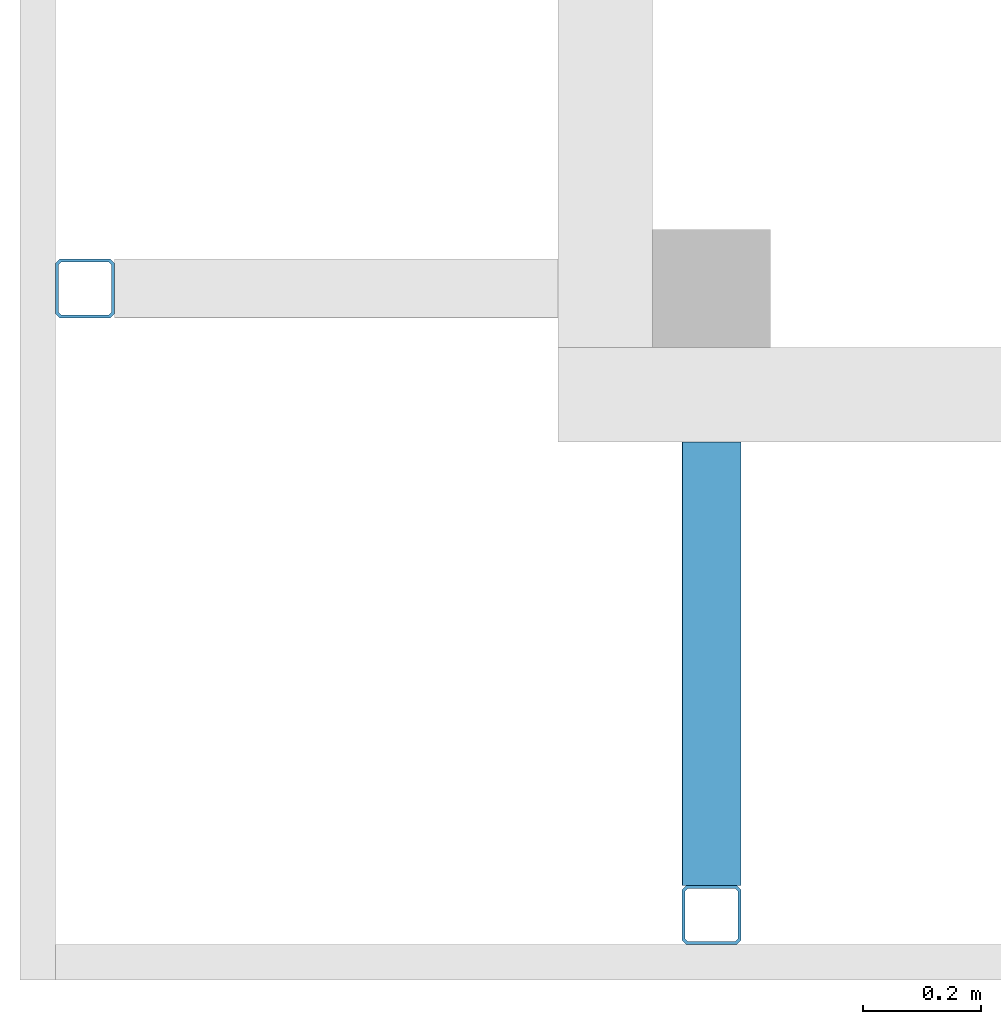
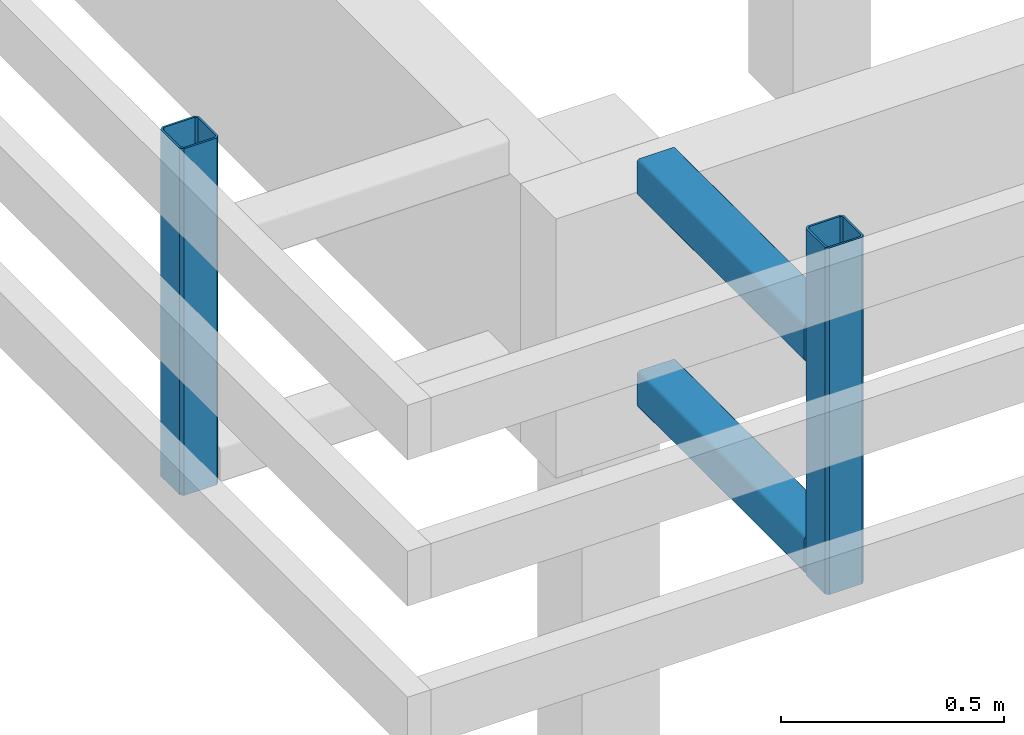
# One storey, part 3 of 42: 4 members.
"""IFC4 building model written with IfcOpenShell, lengths in metres."""

import ifcopenshell
import ifcopenshell.guid

model = None  # the IFC model being written
_history = None  # IfcOwnerHistory: only IFC2X3 demands one
_inside = {}  # id of a spatial element -> (the spatial element, [elements in it])
_under = {}  # id of a project, library or spatial element -> (it, [spatial elements below it])
_declared = {}  # id of a project -> (the project, [libraries it declares])
_typed = {}  # id of a type object -> (the type object, [elements of that type])
_made_of = {}  # id of a material, layer set ... -> (it, [elements and type objects made of it])


def new_model(schema):
    """Start an empty IFC model of exactly this schema.

    Asked for "IFC4X3", IfcOpenShell would pick the latest addendum, in which some entities
    have other attributes; the version numbers below select the first issue.
    IFC2X3 requires an IfcOwnerHistory on every rooted entity: one is made here for all.
    """
    global model, _history
    if schema == "IFC4X3":
        model = ifcopenshell.file(schema_version=(4, 3, 0, 0))
    else:
        model = ifcopenshell.file(schema=schema)
    _inside.clear()
    _under.clear()
    _declared.clear()
    _typed.clear()
    _made_of.clear()
    _history = None
    if model.schema == "IFC2X3":
        org = make("IfcOrganization", Name="unknown")
        user = make(
            "IfcPersonAndOrganization",
            ThePerson=make("IfcPerson", FamilyName="unknown"),
            TheOrganization=org,
        )
        app = make(
            "IfcApplication",
            ApplicationDeveloper=org,
            Version="unknown",
            ApplicationFullName="unknown",
            ApplicationIdentifier="unknown",
        )
        _history = make(
            "IfcOwnerHistory",
            OwningUser=user,
            OwningApplication=app,
            ChangeAction="ADDED",
            CreationDate=0,
        )
    return model


def make(cls, **values):
    """One entity of the class cls with the attributes given. An attribute that is None is left unset."""
    return model.create_entity(
        cls, **{name: value for name, value in values.items() if value is not None}
    )


def entity(cls, *values):
    """Any entity or typed value of the class cls, its attributes in the order of the schema. None: left unset."""
    e = model.create_entity(cls)
    for i, value in enumerate(values):
        if value is not None:
            e[i] = value
    return e


def rooted(cls, **values):
    """An entity with a GlobalId (a new one), such as an element, a storey or a relation."""
    return make(cls, GlobalId=ifcopenshell.guid.new(), OwnerHistory=_history, **values)


def si_unit(unit_type, name, prefix=None):
    """IfcSIUnit, for example si_unit("LENGTHUNIT", "METRE", prefix="MILLI")."""
    return make("IfcSIUnit", UnitType=unit_type, Prefix=prefix, Name=name)


def converted_unit(unit_type, name, factor, base, dimensions=None, offset=None):
    """IfcConversionBasedUnit, such as the inch: factor (a typed value) times the base unit."""
    return make(
        "IfcConversionBasedUnit"
        if offset is None
        else "IfcConversionBasedUnitWithOffset",
        ConversionOffset=offset,
        Dimensions=None
        if dimensions is None
        else entity("IfcDimensionalExponents", *dimensions),
        UnitType=unit_type,
        Name=name,
        ConversionFactor=make(
            "IfcMeasureWithUnit", ValueComponent=factor, UnitComponent=base
        ),
    )


def derived_unit(unit_type, elements):
    """IfcDerivedUnit: a product of units, each with its exponent."""
    return make(
        "IfcDerivedUnit",
        Elements=[
            make("IfcDerivedUnitElement", Unit=unit, Exponent=power)
            for unit, power in elements
        ],
        UnitType=unit_type,
    )


def assignment(units):
    """IfcUnitAssignment: the units of a project."""
    return None if units is None else make("IfcUnitAssignment", Units=units)


def point(xyz):
    """IfcCartesianPoint."""
    return None if xyz is None else make("IfcCartesianPoint", Coordinates=xyz)


def direction(xyz):
    """IfcDirection."""
    return None if xyz is None else make("IfcDirection", DirectionRatios=xyz)


def frame(location, z_axis=None, x_axis=None):
    """IfcAxis2Placement3D, a coordinate frame: its origin and axes. An axis left out is left unset."""
    return make(
        "IfcAxis2Placement3D",
        Location=point(location),
        Axis=direction(z_axis),
        RefDirection=direction(x_axis),
    )


def origin():
    """The frame at (0, 0, 0) with its axes left unset."""
    return frame((0.0, 0.0, 0.0))


def place(relative_to, where):
    """IfcLocalPlacement: puts the frame where relative to a parent placement (None: the world)."""
    return make(
        "IfcLocalPlacement", PlacementRelTo=relative_to, RelativePlacement=where
    )


def context(
    kind, dimensions, precision=None, world=None, true_north=None, identifier=None
):
    """IfcGeometricRepresentationContext, for example the 3D "Model" context."""
    return make(
        "IfcGeometricRepresentationContext",
        ContextIdentifier=identifier,
        ContextType=kind,
        CoordinateSpaceDimension=dimensions,
        Precision=precision,
        WorldCoordinateSystem=world,
        TrueNorth=true_north,
    )


def subcontext(parent, identifier, kind, view, scale=None):
    """IfcGeometricRepresentationSubContext, for example "Body" below "Model"."""
    return make(
        "IfcGeometricRepresentationSubContext",
        ContextIdentifier=identifier,
        ContextType=kind,
        ParentContext=parent,
        TargetScale=scale,
        TargetView=view,
    )


def project(units=None, contexts=None):
    """IfcProject with its units and contexts."""
    return rooted(
        "IfcProject",
        Name="project",
        RepresentationContexts=contexts,
        UnitsInContext=assignment(units),
    )


def spatial(cls, under=None, at=None, **own):
    """A site, building, storey or space (cls), placed at a placement, below another one or the project."""
    s = rooted(cls, ObjectPlacement=at, **own)
    if under is not None:
        _under.setdefault(under.id(), (under, []))[1].append(s)
    return s


def faces_of(points, faces, orient=None, outer=None):
    """IfcFace entities. A face is a list of loops; a loop is a list of indices into points, from 0.

    orient and outer hold one flag for each loop. By default every Orientation is true, the
    first loop of a face is its IfcFaceOuterBound and the others are IfcFaceBound.
    """
    made = []
    for i, loops in enumerate(faces):
        bounds = []
        for j, loop in enumerate(loops):
            is_outer = j == 0 if outer is None else outer[i][j]
            bounds.append(
                make(
                    "IfcFaceOuterBound" if is_outer else "IfcFaceBound",
                    Bound=make("IfcPolyLoop", Polygon=[points[k] for k in loop]),
                    Orientation=True if orient is None else orient[i][j],
                )
            )
        made.append(make("IfcFace", Bounds=bounds))
    return made


def faceted_brep(points, faces, orient=None, outer=None, voids=None):
    """IfcFacetedBrep: a solid bounded by flat faces; with voids (closed shells), ...WithVoids."""
    shared = [point(p) for p in points]
    hull = make("IfcClosedShell", CfsFaces=faces_of(shared, faces, orient, outer))
    if voids is None:
        return make("IfcFacetedBrep", Outer=hull)
    return make(
        "IfcFacetedBrepWithVoids",
        Outer=hull,
        Voids=[
            make(cls, CfsFaces=faces_of(shared, fs, o, b)) for cls, fs, o, b in voids
        ],
    )


def shape(context_of_items, identifier, shape_type, items):
    """IfcShapeRepresentation: the items that make up one representation, for example the "Body"."""
    return make(
        "IfcShapeRepresentation",
        ContextOfItems=context_of_items,
        RepresentationIdentifier=identifier,
        RepresentationType=shape_type,
        Items=items,
    )


def material(Name=None, Category=None):
    """IfcMaterial."""
    return make("IfcMaterial", Name=Name, Category=Category)


def made_of(thing, what):
    """Note that an element or type object is made of a material, layer set ...; save() writes the relation."""
    if what is not None:
        _made_of.setdefault(what.id(), (what, []))[1].append(thing)
    return thing


def element(
    cls,
    number,
    at=None,
    inside=None,
    cuts=None,
    type_object=None,
    material=None,
    context=None,
    identifier="Body",
    shape_type=None,
    held_by="IfcProductDefinitionShape",
    body=None,
    shapes=None,
    **own,
):
    """One element of the class cls, such as IfcWall. Its Tag is "e" and its number.

    at: its placement. inside: the storey or other place that contains it. cuts: it is an
    opening in that element (IfcRelVoidsElement). A single representation is given by context,
    identifier, shape_type and body (its items); several are given by shapes. held_by: the class
    of the entity that holds the representations. save() writes the other relations.
    """
    e = rooted(cls, Tag="e%d" % number, ObjectPlacement=at, **own)
    if body is not None:
        shapes = [shape(context, identifier, shape_type, body)]
    if shapes is not None:
        e.Representation = make(held_by, Representations=shapes)
    if inside is not None:
        _inside.setdefault(inside.id(), (inside, []))[1].append(e)
    if cuts is not None:
        rooted(
            "IfcRelVoidsElement", RelatingBuildingElement=cuts, RelatedOpeningElement=e
        )
    if type_object is not None:
        _typed.setdefault(type_object.id(), (type_object, []))[1].append(e)
    return made_of(e, material)


def aggregate(whole, parts):
    """IfcRelAggregates: a whole, such as a stair, and the parts it consists of."""
    return rooted("IfcRelAggregates", RelatingObject=whole, RelatedObjects=parts)


def save(model, path):
    """Write the relations noted so far, then the file.

    IfcRelAggregates (storeys below a building ...), IfcRelContainedInSpatialStructure (elements
    in a storey), IfcRelDefinesByType, IfcRelAssociatesMaterial and IfcRelDeclares: one each for
    every whole, place, type object, material and project.
    """
    for whole, parts in _under.values():
        aggregate(whole, parts)
    for where, things in _inside.values():
        rooted(
            "IfcRelContainedInSpatialStructure",
            RelatedElements=things,
            RelatingStructure=where,
        )
    for kind, things in _typed.values():
        rooted("IfcRelDefinesByType", RelatedObjects=things, RelatingType=kind)
    for what, things in _made_of.values():
        rooted("IfcRelAssociatesMaterial", RelatedObjects=things, RelatingMaterial=what)
    for by, libraries in _declared.values():
        rooted("IfcRelDeclares", RelatingContext=by, RelatedDefinitions=libraries)
    model.write(path)


model = new_model("IFC4")

# Units and contexts
model_context = context("Model", 3, precision=1e-05, world=origin())
plan_context = context("Plan", 2, precision=1e-05, world=origin())
body_context = subcontext(model_context, "Body", "Model", "MODEL_VIEW")
ifc_project = project(units=[si_unit("LENGTHUNIT", "METRE"), si_unit("AREAUNIT", "SQUARE_METRE"), si_unit("VOLUMEUNIT", "CUBIC_METRE"), si_unit("MASSUNIT", "GRAM", prefix="KILO"), converted_unit("PLANEANGLEUNIT", "DEGREE", entity("IfcPlaneAngleMeasure", 0.0174532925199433), si_unit("PLANEANGLEUNIT", "RADIAN"), dimensions=[0, 0, 0, 0, 0, 0, 0]), derived_unit("THERMALTRANSMITTANCEUNIT", [(si_unit("POWERUNIT", "WATT"), 1), (si_unit("THERMODYNAMICTEMPERATUREUNIT", "KELVIN"), -1), (si_unit("LENGTHUNIT", "METRE"), -2)]), derived_unit("VOLUMETRICFLOWRATEUNIT", [(si_unit("LENGTHUNIT", "METRE"), 3), (converted_unit("TIMEUNIT", "hour", entity("IfcTimeMeasure", 3600.0), si_unit("TIMEUNIT", "SECOND"), dimensions=[0, 0, 1, 0, 0, 0, 0]), -1), (si_unit("LENGTHUNIT", "METRE"), -1)])], contexts=[model_context, plan_context])

# Site, building, storey
site_placement = place(None, origin())
site = spatial("IfcSite", under=ifc_project, at=site_placement, Name="Site", CompositionType="ELEMENT")
building_placement = place(site_placement, origin())
building = spatial("IfcBuilding", under=site, at=building_placement, Name="Admin", CompositionType="ELEMENT")
storey_placement = place(building_placement, frame((0.0, 0.0, 6.61)))
storey = spatial("IfcBuildingStorey", under=building, at=storey_placement, Name="02-Etage2", CompositionType="ELEMENT", Elevation=6.61)

# Members
ifc_material_1 = material(Name="S235")
member_1_placement = place(storey_placement, frame((23.1498008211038, 12.0794493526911, 2.28)))
element("IfcMember", 1, at=member_1_placement, inside=storey, material=ifc_material_1, Name="Bandeau R+2", context=body_context, shape_type="Brep", body=[
    faceted_brep([(0.0950000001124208, 0.0900000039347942, 0.0), (0.0950000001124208, 0.0900000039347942, 0.95), (0.0950000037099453, 0.0100000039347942, 0.95), (0.0950000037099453, 0.0100000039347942, 0.0), (0.0899999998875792, 0.0950000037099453, 0.0), (0.0899999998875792, 0.0950000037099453, 0.95), (0.00999999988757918, 0.0950000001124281, 0.0), (0.00999999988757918, 0.0950000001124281, 0.95), (0.00500000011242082, 0.0899999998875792, 0.0), (0.00500000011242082, 0.0899999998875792, 0.95), (0.0050000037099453, 0.00999999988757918, 0.0), (0.0050000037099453, 0.00999999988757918, 0.95), (0.0100000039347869, 0.0050000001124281, 0.0), (0.0100000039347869, 0.0050000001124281, 0.95), (0.090000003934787, 0.0050000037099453, 0.0), (0.090000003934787, 0.0050000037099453, 0.95), (0.0925000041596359, 3.82237340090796e-09, 0.0), (0.0925000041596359, 3.82237340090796e-09, 0.95), (0.100000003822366, 0.00750000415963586, 0.95), (0.100000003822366, 0.00750000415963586, 0.0), (0.00750000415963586, 0.0, 0.0), (0.00750000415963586, 0.0, 0.95), (3.82236612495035e-09, 0.00749999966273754, 0.0), (3.82236612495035e-09, 0.00749999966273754, 0.95), (0.0, 0.0924999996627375, 0.0), (0.0, 0.0924999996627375, 0.95), (0.00749999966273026, 0.1, 0.0), (0.00749999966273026, 0.1, 0.95), (0.0924999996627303, 0.100000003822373, 0.0), (0.0924999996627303, 0.100000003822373, 0.95), (0.1, 0.0925000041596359, 0.0), (0.1, 0.0925000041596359, 0.95)], [[[0, 1, 2, 3]], [[4, 5, 1, 0]], [[6, 7, 5, 4]], [[8, 9, 7, 6]], [[10, 11, 9, 8]], [[12, 13, 11, 10]], [[14, 15, 13, 12]], [[3, 2, 15, 14]], [[16, 17, 18, 19]], [[20, 21, 17, 16]], [[22, 23, 21, 20]], [[24, 25, 23, 22]], [[26, 27, 25, 24]], [[28, 29, 27, 26]], [[30, 31, 29, 28]], [[19, 18, 31, 30]], [[18, 17, 21, 23, 25, 27, 29, 31], [2, 1, 5, 7, 9, 11, 13, 15]], [[19, 30, 28, 26, 24, 22, 20, 16], [3, 14, 12, 10, 8, 6, 4, 0]]], orient=[[False], [False], [False], [False], [False], [False], [False], [False], [False], [False], [False], [False], [False], [False], [False], [False], [False, False], [False, False]]),
])
ifc_material_2 = material(Name="S235")
member_2_placement = place(storey_placement, frame((24.2098010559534, 11.0194493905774, 2.28)))
element("IfcMember", 2, at=member_2_placement, inside=storey, material=ifc_material_2, Name="Bandeau R+2", context=body_context, shape_type="Brep", body=[
    faceted_brep([(0.01, 0.095, 0.0), (0.01, 0.095, 0.95), (0.09, 0.095, 0.95), (0.09, 0.095, 0.0), (0.005, 0.09, 0.0), (0.005, 0.09, 0.95), (0.005, 0.01, 0.0), (0.005, 0.01, 0.95), (0.01, 0.005, 0.0), (0.01, 0.005, 0.95), (0.09, 0.005, 0.0), (0.09, 0.005, 0.95), (0.095, 0.01, 0.0), (0.095, 0.01, 0.95), (0.095, 0.09, 0.0), (0.095, 0.09, 0.95), (0.1, 0.0925, 0.0), (0.1, 0.0925, 0.95), (0.0925, 0.1, 0.95), (0.0925, 0.1, 0.0), (0.1, 0.0075, 0.0), (0.1, 0.0075, 0.95), (0.0925, 0.0, 0.0), (0.0925, 0.0, 0.95), (0.0075, 0.0, 0.0), (0.0075, 0.0, 0.95), (0.0, 0.0075, 0.0), (0.0, 0.0075, 0.95), (0.0, 0.0925, 0.0), (0.0, 0.0925, 0.95), (0.0075, 0.1, 0.0), (0.0075, 0.1, 0.95)], [[[0, 1, 2, 3]], [[4, 5, 1, 0]], [[6, 7, 5, 4]], [[8, 9, 7, 6]], [[10, 11, 9, 8]], [[12, 13, 11, 10]], [[14, 15, 13, 12]], [[3, 2, 15, 14]], [[16, 17, 18, 19]], [[20, 21, 17, 16]], [[22, 23, 21, 20]], [[24, 25, 23, 22]], [[26, 27, 25, 24]], [[28, 29, 27, 26]], [[30, 31, 29, 28]], [[19, 18, 31, 30]], [[18, 17, 21, 23, 25, 27, 29, 31], [2, 1, 5, 7, 9, 11, 13, 15]], [[19, 30, 28, 26, 24, 22, 20, 16], [3, 14, 12, 10, 8, 6, 4, 0]]], orient=[[False], [False], [False], [False], [False], [False], [False], [False], [False], [False], [False], [False], [False], [False], [False], [False], [False, False], [False, False]]),
])
ifc_material_3 = material(Name="S235")
member_3_placement = place(storey_placement, frame((24.2098010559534, 11.1194493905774, 2.86)))
element("IfcMember", 3, at=member_3_placement, inside=storey, material=ifc_material_3, Name="Bandeau R+2", context=body_context, shape_type="Brep", body=[
    faceted_brep([(0.095, 0.0, 0.09), (0.095, 0.0, 0.01), (0.0950000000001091, 0.74999999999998, 0.01), (0.0950000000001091, 0.74999999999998, 0.09), (0.0949240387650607, 0.0, 0.0908682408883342), (0.0949240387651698, 0.74999999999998, 0.0908682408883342), (0.0946984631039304, 0.0, 0.0917101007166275), (0.0946984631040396, 0.74999999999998, 0.0917101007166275), (0.0943301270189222, 0.0, 0.0925), (0.0943301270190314, 0.74999999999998, 0.0925), (0.0938302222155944, 0.0, 0.0932139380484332), (0.0938302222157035, 0.74999999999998, 0.0932139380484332), (0.0932139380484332, 1.81898940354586e-15, 0.0938302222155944), (0.0932139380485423, 0.749999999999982, 0.0938302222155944), (0.0925, 1.81898940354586e-15, 0.0943301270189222), (0.0925000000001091, 0.749999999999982, 0.0943301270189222), (0.0917101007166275, 1.81898940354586e-15, 0.0946984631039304), (0.0917101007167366, 0.749999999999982, 0.0946984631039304), (0.090868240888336, 1.81898940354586e-15, 0.0949240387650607), (0.0908682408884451, 0.749999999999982, 0.0949240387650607), (0.09, 1.81898940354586e-15, 0.095), (0.0900000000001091, 0.749999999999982, 0.095), (0.01, 1.2732925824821e-14, 0.095), (0.0100000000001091, 0.749999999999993, 0.095), (0.009131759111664, 1.2732925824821e-14, 0.0949240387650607), (0.00913175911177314, 0.749999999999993, 0.0949240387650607), (0.00828989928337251, 1.2732925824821e-14, 0.0946984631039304), (0.00828989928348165, 0.749999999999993, 0.0946984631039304), (0.0075, 1.2732925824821e-14, 0.0943301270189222), (0.00750000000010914, 0.749999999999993, 0.0943301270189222), (0.00678606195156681, 1.2732925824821e-14, 0.0938302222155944), (0.00678606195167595, 0.749999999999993, 0.0938302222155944), (0.0061697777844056, 1.45519152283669e-14, 0.0932139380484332), (0.00616977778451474, 0.749999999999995, 0.0932139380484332), (0.00566987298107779, 1.45519152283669e-14, 0.0925), (0.00566987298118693, 0.749999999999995, 0.0925), (0.00530153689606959, 1.45519152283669e-14, 0.0917101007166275), (0.00530153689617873, 0.749999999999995, 0.0917101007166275), (0.00507596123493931, 1.45519152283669e-14, 0.0908682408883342), (0.00507596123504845, 0.749999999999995, 0.0908682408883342), (0.005, 1.45519152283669e-14, 0.09), (0.00500000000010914, 0.749999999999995, 0.09), (0.005, 1.45519152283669e-14, 0.01), (0.00500000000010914, 0.749999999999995, 0.01), (0.00507596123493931, 1.45519152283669e-14, 0.00913175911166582), (0.00507596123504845, 0.749999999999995, 0.00913175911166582), (0.00530153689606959, 1.45519152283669e-14, 0.00828989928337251), (0.00530153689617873, 0.749999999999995, 0.00828989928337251), (0.00566987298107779, 1.45519152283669e-14, 0.0075), (0.00566987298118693, 0.749999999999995, 0.0075), (0.0061697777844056, 1.45519152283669e-14, 0.00678606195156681), (0.00616977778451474, 0.749999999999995, 0.00678606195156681), (0.00678606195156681, 1.2732925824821e-14, 0.0061697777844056), (0.00678606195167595, 0.749999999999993, 0.0061697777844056), (0.0075, 1.2732925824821e-14, 0.00566987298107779), (0.00750000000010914, 0.749999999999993, 0.00566987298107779), (0.00828989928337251, 1.2732925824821e-14, 0.00530153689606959), (0.00828989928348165, 0.749999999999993, 0.00530153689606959), (0.009131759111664, 1.2732925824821e-14, 0.00507596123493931), (0.00913175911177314, 0.749999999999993, 0.00507596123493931), (0.01, 1.2732925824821e-14, 0.005), (0.0100000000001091, 0.749999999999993, 0.005), (0.09, 1.81898940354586e-15, 0.005), (0.0900000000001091, 0.749999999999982, 0.005), (0.090868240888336, 1.81898940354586e-15, 0.00507596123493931), (0.0908682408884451, 0.749999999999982, 0.00507596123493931), (0.0917101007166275, 1.81898940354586e-15, 0.00530153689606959), (0.0917101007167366, 0.749999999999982, 0.00530153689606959), (0.0925, 1.81898940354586e-15, 0.00566987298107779), (0.0925000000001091, 0.749999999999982, 0.00566987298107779), (0.0932139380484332, 1.81898940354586e-15, 0.0061697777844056), (0.0932139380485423, 0.749999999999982, 0.0061697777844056), (0.0938302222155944, 0.0, 0.00678606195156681), (0.0938302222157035, 0.74999999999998, 0.00678606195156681), (0.0943301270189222, 0.0, 0.0075), (0.0943301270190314, 0.74999999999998, 0.0075), (0.0946984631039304, 0.0, 0.00828989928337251), (0.0946984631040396, 0.74999999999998, 0.00828989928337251), (0.0949240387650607, 0.0, 0.00913175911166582), (0.0949240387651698, 0.74999999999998, 0.00913175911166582), (0.0075, 1.2732925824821e-14, 0.1), (0.00619763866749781, 1.45519152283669e-14, 0.099886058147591), (0.00619763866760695, 0.749999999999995, 0.099886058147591), (0.00750000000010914, 0.749999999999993, 0.1), (0.0925, 1.81898940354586e-15, 0.1), (0.0925000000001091, 0.749999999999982, 0.1), (0.0938023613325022, 0.0, 0.099886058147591), (0.0938023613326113, 0.74999999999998, 0.099886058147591), (0.0950651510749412, 0.0, 0.0995476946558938), (0.0950651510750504, 0.74999999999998, 0.0995476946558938), (0.09625, 0.0, 0.0989951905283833), (0.0962500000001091, 0.74999999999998, 0.0989951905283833), (0.097320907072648, 0.0, 0.0982453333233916), (0.0973209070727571, 0.74999999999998, 0.0982453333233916), (0.0982453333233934, 0.0, 0.0973209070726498), (0.0982453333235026, 0.74999999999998, 0.0973209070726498), (0.0989951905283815, 0.0, 0.09625), (0.0989951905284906, 0.74999999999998, 0.09625), (0.0995476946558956, 0.0, 0.0950651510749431), (0.0995476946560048, 0.74999999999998, 0.0950651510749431), (0.0998860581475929, 0.0, 0.0938023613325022), (0.099886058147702, 0.74999999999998, 0.0938023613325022), (0.1, 0.0, 0.0925), (0.100000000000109, 0.74999999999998, 0.0925), (0.0998860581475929, 0.0, 0.00619763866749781), (0.1, 0.0, 0.0075), (0.100000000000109, 0.74999999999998, 0.0075), (0.099886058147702, 0.74999999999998, 0.00619763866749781), (0.0995476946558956, 0.0, 0.00493484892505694), (0.0995476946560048, 0.74999999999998, 0.00493484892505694), (0.0989951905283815, 0.0, 0.00375), (0.0989951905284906, 0.74999999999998, 0.00375), (0.0982453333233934, 0.0, 0.00267909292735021), (0.0982453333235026, 0.74999999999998, 0.00267909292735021), (0.097320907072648, 0.0, 0.00175466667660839), (0.0973209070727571, 0.74999999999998, 0.00175466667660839), (0.09625, 0.0, 0.00100480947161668), (0.0962500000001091, 0.74999999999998, 0.00100480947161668), (0.0950651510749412, 0.0, 0.000452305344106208), (0.0950651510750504, 0.74999999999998, 0.000452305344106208), (0.0938023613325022, 0.0, 0.000113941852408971), (0.0938023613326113, 0.74999999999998, 0.000113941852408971), (0.0925, 1.81898940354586e-15, 0.0), (0.0925000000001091, 0.749999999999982, 0.0), (0.0075, 1.2732925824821e-14, 0.0), (0.00750000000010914, 0.749999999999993, 0.0), (0.00619763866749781, 1.45519152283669e-14, 0.000113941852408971), (0.00619763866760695, 0.749999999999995, 0.000113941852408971), (0.00493484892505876, 1.45519152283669e-14, 0.000452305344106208), (0.0049348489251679, 0.749999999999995, 0.000452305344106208), (0.00375, 1.45519152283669e-14, 0.00100480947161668), (0.00375000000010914, 0.749999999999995, 0.00100480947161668), (0.00267909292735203, 1.45519152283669e-14, 0.00175466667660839), (0.00267909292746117, 0.749999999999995, 0.00175466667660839), (0.00175466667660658, 1.45519152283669e-14, 0.00267909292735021), (0.00175466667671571, 0.749999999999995, 0.00267909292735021), (0.0010048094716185, 1.45519152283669e-14, 0.00375), (0.00100480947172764, 0.749999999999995, 0.00375), (0.000452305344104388, 1.45519152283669e-14, 0.00493484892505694), (0.000452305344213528, 0.749999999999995, 0.00493484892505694), (0.000113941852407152, 1.45519152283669e-14, 0.00619763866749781), (0.000113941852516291, 0.749999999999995, 0.00619763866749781), (0.0, 0.0, 0.0075), (1.09139364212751e-13, 0.749999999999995, 0.0075), (0.000113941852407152, 1.45519152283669e-14, 0.0938023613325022), (0.0, 0.0, 0.0925), (1.09139364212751e-13, 0.749999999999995, 0.0925), (0.000113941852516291, 0.749999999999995, 0.0938023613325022), (0.000452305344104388, 1.45519152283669e-14, 0.0950651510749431), (0.000452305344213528, 0.749999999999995, 0.0950651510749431), (0.0010048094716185, 1.45519152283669e-14, 0.09625), (0.00100480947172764, 0.749999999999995, 0.09625), (0.00175466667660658, 1.45519152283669e-14, 0.0973209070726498), (0.00175466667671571, 0.749999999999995, 0.0973209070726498), (0.00267909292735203, 1.45519152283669e-14, 0.0982453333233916), (0.00267909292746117, 0.749999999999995, 0.0982453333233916), (0.00375, 1.45519152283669e-14, 0.0989951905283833), (0.00375000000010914, 0.749999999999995, 0.0989951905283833), (0.00493484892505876, 1.45519152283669e-14, 0.0995476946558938), (0.0049348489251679, 0.749999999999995, 0.0995476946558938)], [[[0, 1, 2, 3]], [[4, 0, 3, 5]], [[6, 4, 5, 7]], [[8, 6, 7, 9]], [[10, 8, 9, 11]], [[12, 10, 11, 13]], [[14, 12, 13, 15]], [[16, 14, 15, 17]], [[18, 16, 17, 19]], [[20, 18, 19, 21]], [[22, 20, 21, 23]], [[24, 22, 23, 25]], [[26, 24, 25, 27]], [[28, 26, 27, 29]], [[30, 28, 29, 31]], [[32, 30, 31, 33]], [[34, 32, 33, 35]], [[36, 34, 35, 37]], [[38, 36, 37, 39]], [[40, 38, 39, 41]], [[42, 40, 41, 43]], [[44, 42, 43, 45]], [[46, 44, 45, 47]], [[48, 46, 47, 49]], [[50, 48, 49, 51]], [[52, 50, 51, 53]], [[54, 52, 53, 55]], [[56, 54, 55, 57]], [[58, 56, 57, 59]], [[60, 58, 59, 61]], [[62, 60, 61, 63]], [[64, 62, 63, 65]], [[66, 64, 65, 67]], [[68, 66, 67, 69]], [[70, 68, 69, 71]], [[72, 70, 71, 73]], [[74, 72, 73, 75]], [[76, 74, 75, 77]], [[78, 76, 77, 79]], [[1, 78, 79, 2]], [[80, 81, 82, 83]], [[84, 80, 83, 85]], [[86, 84, 85, 87]], [[88, 86, 87, 89]], [[90, 88, 89, 91]], [[92, 90, 91, 93]], [[94, 92, 93, 95]], [[96, 94, 95, 97]], [[98, 96, 97, 99]], [[100, 98, 99, 101]], [[102, 100, 101, 103]], [[104, 105, 106, 107]], [[108, 104, 107, 109]], [[110, 108, 109, 111]], [[112, 110, 111, 113]], [[114, 112, 113, 115]], [[116, 114, 115, 117]], [[118, 116, 117, 119]], [[120, 118, 119, 121]], [[122, 120, 121, 123]], [[124, 122, 123, 125]], [[126, 124, 125, 127]], [[128, 126, 127, 129]], [[130, 128, 129, 131]], [[132, 130, 131, 133]], [[134, 132, 133, 135]], [[136, 134, 135, 137]], [[138, 136, 137, 139]], [[140, 138, 139, 141]], [[142, 140, 141, 143]], [[144, 145, 146, 147]], [[148, 144, 147, 149]], [[150, 148, 149, 151]], [[152, 150, 151, 153]], [[154, 152, 153, 155]], [[156, 154, 155, 157]], [[158, 156, 157, 159]], [[81, 158, 159, 82]], [[146, 143, 141, 139, 137, 135, 133, 131, 129, 127, 125, 123, 121, 119, 117, 115, 113, 111, 109, 107, 106, 103, 101, 99, 97, 95, 93, 91, 89, 87, 85, 83, 82, 159, 157, 155, 153, 151, 149, 147], [2, 79, 77, 75, 73, 71, 69, 67, 65, 63, 61, 59, 57, 55, 53, 51, 49, 47, 45, 43, 41, 39, 37, 35, 33, 31, 29, 27, 25, 23, 21, 19, 17, 15, 13, 11, 9, 7, 5, 3]], [[103, 106, 105, 102]], [[102, 105, 104, 108, 110, 112, 114, 116, 118, 120, 122, 124, 126, 128, 130, 132, 134, 136, 138, 140, 142, 145, 144, 148, 150, 152, 154, 156, 158, 81, 80, 84, 86, 88, 90, 92, 94, 96, 98, 100], [1, 0, 4, 6, 8, 10, 12, 14, 16, 18, 20, 22, 24, 26, 28, 30, 32, 34, 36, 38, 40, 42, 44, 46, 48, 50, 52, 54, 56, 58, 60, 62, 64, 66, 68, 70, 72, 74, 76, 78]], [[145, 142, 143, 146]]], orient=[[False], [False], [False], [False], [False], [False], [False], [False], [False], [False], [False], [False], [False], [False], [False], [False], [False], [False], [False], [False], [False], [False], [False], [False], [False], [False], [False], [False], [False], [False], [False], [False], [False], [False], [False], [False], [False], [False], [False], [False], [False], [False], [False], [False], [False], [False], [False], [False], [False], [False], [False], [False], [False], [False], [False], [False], [False], [False], [False], [False], [False], [False], [False], [False], [False], [False], [False], [False], [False], [False], [False], [False], [False], [False], [False], [False], [False], [False], [False, False], [False], [False, False], [False]]),
])
ifc_material_4 = material(Name="S235")
member_4_placement = place(storey_placement, frame((24.2098010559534, 11.1194493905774, 2.28)))
element("IfcMember", 4, at=member_4_placement, inside=storey, material=ifc_material_4, Name="Bandeau R+2", context=body_context, shape_type="Brep", body=[
    faceted_brep([(0.095, 0.0, 0.09), (0.095, 0.0, 0.01), (0.0950000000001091, 0.749999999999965, 0.01), (0.0950000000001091, 0.749999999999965, 0.09), (0.0949240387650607, 0.0, 0.0908682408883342), (0.0949240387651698, 0.749999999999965, 0.0908682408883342), (0.0946984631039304, 0.0, 0.0917101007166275), (0.0946984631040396, 0.749999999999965, 0.0917101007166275), (0.0943301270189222, 0.0, 0.0925), (0.0943301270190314, 0.749999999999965, 0.0925), (0.0938302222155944, 0.0, 0.0932139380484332), (0.0938302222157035, 0.749999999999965, 0.0932139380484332), (0.0932139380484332, 1.81898940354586e-15, 0.0938302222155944), (0.0932139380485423, 0.749999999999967, 0.0938302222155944), (0.0925, 1.81898940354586e-15, 0.0943301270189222), (0.0925000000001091, 0.749999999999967, 0.0943301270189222), (0.0917101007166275, 1.81898940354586e-15, 0.0946984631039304), (0.0917101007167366, 0.749999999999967, 0.0946984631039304), (0.090868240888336, 1.81898940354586e-15, 0.0949240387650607), (0.0908682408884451, 0.749999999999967, 0.0949240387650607), (0.09, 1.81898940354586e-15, 0.095), (0.0900000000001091, 0.749999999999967, 0.095), (0.01, 1.2732925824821e-14, 0.095), (0.0100000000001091, 0.749999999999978, 0.095), (0.009131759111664, 1.2732925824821e-14, 0.0949240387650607), (0.00913175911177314, 0.749999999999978, 0.0949240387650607), (0.00828989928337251, 1.2732925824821e-14, 0.0946984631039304), (0.00828989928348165, 0.749999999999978, 0.0946984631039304), (0.0075, 1.2732925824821e-14, 0.0943301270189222), (0.00750000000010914, 0.749999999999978, 0.0943301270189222), (0.00678606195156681, 1.2732925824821e-14, 0.0938302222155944), (0.00678606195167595, 0.749999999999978, 0.0938302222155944), (0.0061697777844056, 1.45519152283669e-14, 0.0932139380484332), (0.00616977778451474, 0.74999999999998, 0.0932139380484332), (0.00566987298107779, 1.45519152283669e-14, 0.0925), (0.00566987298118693, 0.74999999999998, 0.0925), (0.00530153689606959, 1.45519152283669e-14, 0.0917101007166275), (0.00530153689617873, 0.74999999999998, 0.0917101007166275), (0.00507596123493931, 1.45519152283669e-14, 0.0908682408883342), (0.00507596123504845, 0.74999999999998, 0.0908682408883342), (0.005, 1.45519152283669e-14, 0.09), (0.00500000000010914, 0.74999999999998, 0.09), (0.005, 1.45519152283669e-14, 0.01), (0.00500000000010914, 0.74999999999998, 0.01), (0.00507596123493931, 1.45519152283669e-14, 0.00913175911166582), (0.00507596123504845, 0.74999999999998, 0.00913175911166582), (0.00530153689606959, 1.45519152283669e-14, 0.00828989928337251), (0.00530153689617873, 0.74999999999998, 0.00828989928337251), (0.00566987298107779, 1.45519152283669e-14, 0.0075), (0.00566987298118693, 0.74999999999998, 0.0075), (0.0061697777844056, 1.45519152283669e-14, 0.00678606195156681), (0.00616977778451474, 0.74999999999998, 0.00678606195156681), (0.00678606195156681, 1.2732925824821e-14, 0.0061697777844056), (0.00678606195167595, 0.749999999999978, 0.0061697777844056), (0.0075, 1.2732925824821e-14, 0.00566987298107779), (0.00750000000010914, 0.749999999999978, 0.00566987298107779), (0.00828989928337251, 1.2732925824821e-14, 0.00530153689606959), (0.00828989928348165, 0.749999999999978, 0.00530153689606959), (0.009131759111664, 1.2732925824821e-14, 0.00507596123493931), (0.00913175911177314, 0.749999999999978, 0.00507596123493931), (0.01, 1.2732925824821e-14, 0.005), (0.0100000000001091, 0.749999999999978, 0.005), (0.09, 1.81898940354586e-15, 0.005), (0.0900000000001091, 0.749999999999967, 0.005), (0.090868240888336, 1.81898940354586e-15, 0.00507596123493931), (0.0908682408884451, 0.749999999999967, 0.00507596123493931), (0.0917101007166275, 1.81898940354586e-15, 0.00530153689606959), (0.0917101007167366, 0.749999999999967, 0.00530153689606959), (0.0925, 1.81898940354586e-15, 0.00566987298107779), (0.0925000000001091, 0.749999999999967, 0.00566987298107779), (0.0932139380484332, 1.81898940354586e-15, 0.0061697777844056), (0.0932139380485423, 0.749999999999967, 0.0061697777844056), (0.0938302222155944, 0.0, 0.00678606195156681), (0.0938302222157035, 0.749999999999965, 0.00678606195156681), (0.0943301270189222, 0.0, 0.0075), (0.0943301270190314, 0.749999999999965, 0.0075), (0.0946984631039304, 0.0, 0.00828989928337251), (0.0946984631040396, 0.749999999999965, 0.00828989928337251), (0.0949240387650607, 0.0, 0.00913175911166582), (0.0949240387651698, 0.749999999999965, 0.00913175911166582), (0.0075, 1.2732925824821e-14, 0.1), (0.00619763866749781, 1.45519152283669e-14, 0.099886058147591), (0.00619763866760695, 0.74999999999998, 0.099886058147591), (0.00750000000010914, 0.749999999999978, 0.1), (0.0925, 1.81898940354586e-15, 0.1), (0.0925000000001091, 0.749999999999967, 0.1), (0.0938023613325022, 0.0, 0.099886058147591), (0.0938023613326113, 0.749999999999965, 0.099886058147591), (0.0950651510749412, 0.0, 0.0995476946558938), (0.0950651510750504, 0.749999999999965, 0.0995476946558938), (0.09625, 0.0, 0.0989951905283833), (0.0962500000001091, 0.749999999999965, 0.0989951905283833), (0.097320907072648, 0.0, 0.0982453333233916), (0.0973209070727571, 0.749999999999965, 0.0982453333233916), (0.0982453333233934, 0.0, 0.0973209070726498), (0.0982453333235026, 0.749999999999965, 0.0973209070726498), (0.0989951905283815, 0.0, 0.09625), (0.0989951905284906, 0.749999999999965, 0.09625), (0.0995476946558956, 0.0, 0.0950651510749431), (0.0995476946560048, 0.749999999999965, 0.0950651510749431), (0.0998860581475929, 0.0, 0.0938023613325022), (0.099886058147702, 0.749999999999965, 0.0938023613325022), (0.1, 0.0, 0.0925), (0.100000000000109, 0.749999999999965, 0.0925), (0.0998860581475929, 0.0, 0.00619763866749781), (0.1, 0.0, 0.0075), (0.100000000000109, 0.749999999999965, 0.0075), (0.099886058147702, 0.749999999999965, 0.00619763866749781), (0.0995476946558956, 0.0, 0.00493484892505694), (0.0995476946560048, 0.749999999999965, 0.00493484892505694), (0.0989951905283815, 0.0, 0.00375), (0.0989951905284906, 0.749999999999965, 0.00375), (0.0982453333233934, 0.0, 0.00267909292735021), (0.0982453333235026, 0.749999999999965, 0.00267909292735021), (0.097320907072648, 0.0, 0.00175466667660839), (0.0973209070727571, 0.749999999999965, 0.00175466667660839), (0.09625, 0.0, 0.00100480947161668), (0.0962500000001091, 0.749999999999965, 0.00100480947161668), (0.0950651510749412, 0.0, 0.000452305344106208), (0.0950651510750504, 0.749999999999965, 0.000452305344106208), (0.0938023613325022, 0.0, 0.000113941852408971), (0.0938023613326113, 0.749999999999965, 0.000113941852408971), (0.0925, 1.81898940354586e-15, 0.0), (0.0925000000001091, 0.749999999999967, 0.0), (0.0075, 1.2732925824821e-14, 0.0), (0.00750000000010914, 0.749999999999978, 0.0), (0.00619763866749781, 1.45519152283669e-14, 0.000113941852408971), (0.00619763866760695, 0.74999999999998, 0.000113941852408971), (0.00493484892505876, 1.45519152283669e-14, 0.000452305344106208), (0.0049348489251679, 0.74999999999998, 0.000452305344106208), (0.00375, 1.45519152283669e-14, 0.00100480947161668), (0.00375000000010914, 0.74999999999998, 0.00100480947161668), (0.00267909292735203, 1.45519152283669e-14, 0.00175466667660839), (0.00267909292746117, 0.74999999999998, 0.00175466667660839), (0.00175466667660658, 1.45519152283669e-14, 0.00267909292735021), (0.00175466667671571, 0.74999999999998, 0.00267909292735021), (0.0010048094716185, 1.45519152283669e-14, 0.00375), (0.00100480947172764, 0.74999999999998, 0.00375), (0.000452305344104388, 1.45519152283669e-14, 0.00493484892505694), (0.000452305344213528, 0.74999999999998, 0.00493484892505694), (0.000113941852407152, 1.45519152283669e-14, 0.00619763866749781), (0.000113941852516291, 0.74999999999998, 0.00619763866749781), (0.0, 0.0, 0.0075), (1.09139364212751e-13, 0.74999999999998, 0.0075), (0.000113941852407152, 1.45519152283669e-14, 0.0938023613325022), (0.0, 0.0, 0.0925), (1.09139364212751e-13, 0.74999999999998, 0.0925), (0.000113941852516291, 0.74999999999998, 0.0938023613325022), (0.000452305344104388, 1.45519152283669e-14, 0.0950651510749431), (0.000452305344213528, 0.74999999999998, 0.0950651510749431), (0.0010048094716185, 1.45519152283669e-14, 0.09625), (0.00100480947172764, 0.74999999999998, 0.09625), (0.00175466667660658, 1.45519152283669e-14, 0.0973209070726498), (0.00175466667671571, 0.74999999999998, 0.0973209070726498), (0.00267909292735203, 1.45519152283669e-14, 0.0982453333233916), (0.00267909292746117, 0.74999999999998, 0.0982453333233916), (0.00375, 1.45519152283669e-14, 0.0989951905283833), (0.00375000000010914, 0.74999999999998, 0.0989951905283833), (0.00493484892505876, 1.45519152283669e-14, 0.0995476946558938), (0.0049348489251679, 0.74999999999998, 0.0995476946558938)], [[[0, 1, 2, 3]], [[4, 0, 3, 5]], [[6, 4, 5, 7]], [[8, 6, 7, 9]], [[10, 8, 9, 11]], [[12, 10, 11, 13]], [[14, 12, 13, 15]], [[16, 14, 15, 17]], [[18, 16, 17, 19]], [[20, 18, 19, 21]], [[22, 20, 21, 23]], [[24, 22, 23, 25]], [[26, 24, 25, 27]], [[28, 26, 27, 29]], [[30, 28, 29, 31]], [[32, 30, 31, 33]], [[34, 32, 33, 35]], [[36, 34, 35, 37]], [[38, 36, 37, 39]], [[40, 38, 39, 41]], [[42, 40, 41, 43]], [[44, 42, 43, 45]], [[46, 44, 45, 47]], [[48, 46, 47, 49]], [[50, 48, 49, 51]], [[52, 50, 51, 53]], [[54, 52, 53, 55]], [[56, 54, 55, 57]], [[58, 56, 57, 59]], [[60, 58, 59, 61]], [[62, 60, 61, 63]], [[64, 62, 63, 65]], [[66, 64, 65, 67]], [[68, 66, 67, 69]], [[70, 68, 69, 71]], [[72, 70, 71, 73]], [[74, 72, 73, 75]], [[76, 74, 75, 77]], [[78, 76, 77, 79]], [[1, 78, 79, 2]], [[80, 81, 82, 83]], [[84, 80, 83, 85]], [[86, 84, 85, 87]], [[88, 86, 87, 89]], [[90, 88, 89, 91]], [[92, 90, 91, 93]], [[94, 92, 93, 95]], [[96, 94, 95, 97]], [[98, 96, 97, 99]], [[100, 98, 99, 101]], [[102, 100, 101, 103]], [[104, 105, 106, 107]], [[108, 104, 107, 109]], [[110, 108, 109, 111]], [[112, 110, 111, 113]], [[114, 112, 113, 115]], [[116, 114, 115, 117]], [[118, 116, 117, 119]], [[120, 118, 119, 121]], [[122, 120, 121, 123]], [[124, 122, 123, 125]], [[126, 124, 125, 127]], [[128, 126, 127, 129]], [[130, 128, 129, 131]], [[132, 130, 131, 133]], [[134, 132, 133, 135]], [[136, 134, 135, 137]], [[138, 136, 137, 139]], [[140, 138, 139, 141]], [[142, 140, 141, 143]], [[144, 145, 146, 147]], [[148, 144, 147, 149]], [[150, 148, 149, 151]], [[152, 150, 151, 153]], [[154, 152, 153, 155]], [[156, 154, 155, 157]], [[158, 156, 157, 159]], [[81, 158, 159, 82]], [[146, 143, 141, 139, 137, 135, 133, 131, 129, 127, 125, 123, 121, 119, 117, 115, 113, 111, 109, 107, 106, 103, 101, 99, 97, 95, 93, 91, 89, 87, 85, 83, 82, 159, 157, 155, 153, 151, 149, 147], [2, 79, 77, 75, 73, 71, 69, 67, 65, 63, 61, 59, 57, 55, 53, 51, 49, 47, 45, 43, 41, 39, 37, 35, 33, 31, 29, 27, 25, 23, 21, 19, 17, 15, 13, 11, 9, 7, 5, 3]], [[103, 106, 105, 102]], [[102, 105, 104, 108, 110, 112, 114, 116, 118, 120, 122, 124, 126, 128, 130, 132, 134, 136, 138, 140, 142, 145, 144, 148, 150, 152, 154, 156, 158, 81, 80, 84, 86, 88, 90, 92, 94, 96, 98, 100], [1, 0, 4, 6, 8, 10, 12, 14, 16, 18, 20, 22, 24, 26, 28, 30, 32, 34, 36, 38, 40, 42, 44, 46, 48, 50, 52, 54, 56, 58, 60, 62, 64, 66, 68, 70, 72, 74, 76, 78]], [[145, 142, 143, 146]]], orient=[[False], [False], [False], [False], [False], [False], [False], [False], [False], [False], [False], [False], [False], [False], [False], [False], [False], [False], [False], [False], [False], [False], [False], [False], [False], [False], [False], [False], [False], [False], [False], [False], [False], [False], [False], [False], [False], [False], [False], [False], [False], [False], [False], [False], [False], [False], [False], [False], [False], [False], [False], [False], [False], [False], [False], [False], [False], [False], [False], [False], [False], [False], [False], [False], [False], [False], [False], [False], [False], [False], [False], [False], [False], [False], [False], [False], [False], [False], [False, False], [False], [False, False], [False]]),
])

save(model, "model.ifc")
